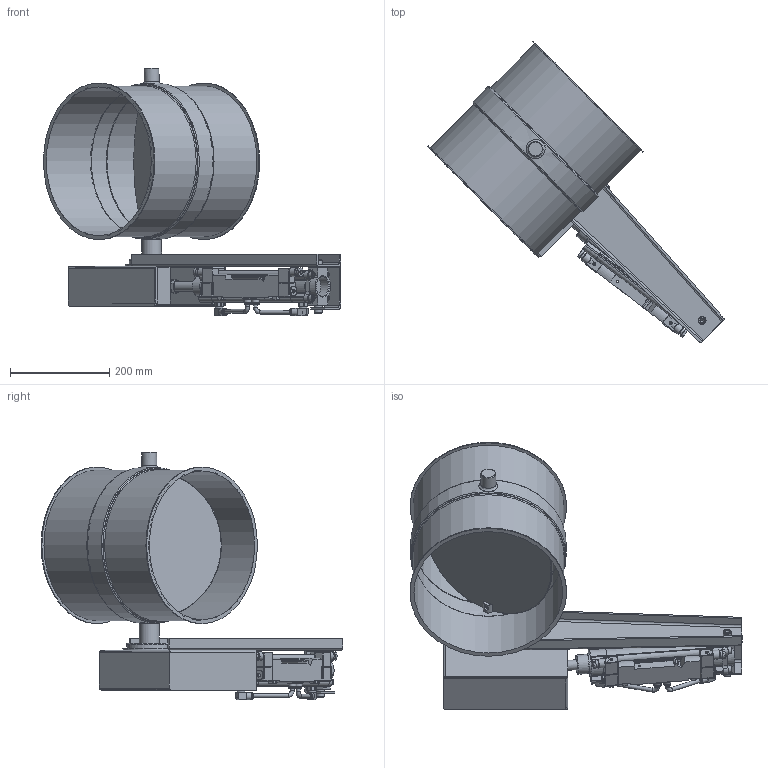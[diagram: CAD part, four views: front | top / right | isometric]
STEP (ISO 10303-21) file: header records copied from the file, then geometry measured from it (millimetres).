
FILE_DESCRIPTION((''),'2;1');
FILE_NAME('U:\Wolfgang\Marcel-3D\fertig\Kapitel 8\3021210.stp','2012-01-13T11:17:50',('iwienholt'),(''),'Autodesk Inventor 2010','Autodesk Inventor 2010','');
FILE_SCHEMA(('AUTOMOTIVE_DESIGN { 1 0 10303 214 1 1 1 1 }'));
Length unit declared in the file: millimetre
Products named in the file (33): 3021210; BuchseD20 90-50; Bolzen D20; Scheibe300b; F1 Zylindereinheit d20; 4527_MSFG_24_42_50_60_6_0; 4527_MSFG_24_42_50_60_6_01; 4527_MSFG_24_42_50_60_6_02; 537600_VUVB_S_B42_ZD_Q8_3AC1_6_0; 537600_VUVB_S_B42_ZD_Q8_3AC1_6_01; 537600_VUVB_S_B42_ZD_Q8_3AC1_6_02; 537600_VUVB_S_B42_ZD_Q8_3AC1_6_03; 153414_QSRL_1_4_8_6_0; schlauch; Schutzkasten; Kasten-a; Kasten-b; 532756_DNCB_50_160_PPV_A_6_0; 532756_DNCB_50_160_PPV_A_6_01; 532756_DNCB_50_160_PPV_A_6_02; 6146_SG_M16x15_6_0; 6146_SG_M16x15_6_01; 6146_SG_M16x15_6_02; 174413_ZNCF_50_6_0; 174413_ZNCF_50_6_01; 174413_ZNCF_50_6_02; 174413_ZNCF_50_6_03; 174413_ZNCF_50_6_04; 174413_ZNCF_50_6_05; 0021088 d20; Strebe d20; Bolzen20; 3021210-1
Assembly tree (36 placements, depth 4):
  3021210
    BuchseD20 90-50
    Bolzen D20  x2
    Scheibe300b
    F1 Zylindereinheit d20
      4527_MSFG_24_42_50_60_6_0  x2
        4527_MSFG_24_42_50_60_6_01
        4527_MSFG_24_42_50_60_6_02
      537600_VUVB_S_B42_ZD_Q8_3AC1_6_0
        537600_VUVB_S_B42_ZD_Q8_3AC1_6_01
        537600_VUVB_S_B42_ZD_Q8_3AC1_6_02
        537600_VUVB_S_B42_ZD_Q8_3AC1_6_03
      153414_QSRL_1_4_8_6_0  x2
      schlauch  x2
      Schutzkasten
        Kasten-a
        Kasten-b
      532756_DNCB_50_160_PPV_A_6_0
        532756_DNCB_50_160_PPV_A_6_01
        532756_DNCB_50_160_PPV_A_6_02
      6146_SG_M16x15_6_0
        6146_SG_M16x15_6_01
        6146_SG_M16x15_6_02
      174413_ZNCF_50_6_0
        174413_ZNCF_50_6_01
        174413_ZNCF_50_6_02
        174413_ZNCF_50_6_03
        174413_ZNCF_50_6_04
        174413_ZNCF_50_6_05
      0021088 d20
      Strebe d20
      Bolzen20
    3021210-1
Bounding box: 597.5 x 606.7 x 497.27 mm (x, y, z)
Volume: 2757606.6 mm3; surface area: 1559631.8 mm2
Topology: 30 solids, 30 shells, 2526 faces, 6771 edges, 4422 vertices
Faces by surface type: plane 1899, cylinder 434, cone 146, bspline 31, torus 14, sphere 2
Full cylindrical faces by diameter (mm): 1 x6, 2.459 x2, 3 x4, 3.5 x2, 4 x2, 4.5 x1, 5 x4, 5.471 x2, 5.5 x2, 6 x16, 6.647 x8, 7.188 x2, 8 x22, 8.05 x2, 9 x6, 9.6 x2, 10 x2, 10.15 x2, 11.445 x2, 12 x2, 13 x4, 13.05 x2, 13.157 x2, 13.346 x1, 14 x6, 14.376 x2, 14.4 x4, 14.5 x2, 14.7 x6, 15.1 x2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
Entity records: 72829 total; most frequent: CARTESIAN_POINT 14186, ORIENTED_EDGE 11712, DIRECTION 11262, EDGE_CURVE 5856, VECTOR 4780, LINE 4780, VERTEX_POINT 3976, EDGE_LOOP 3280
